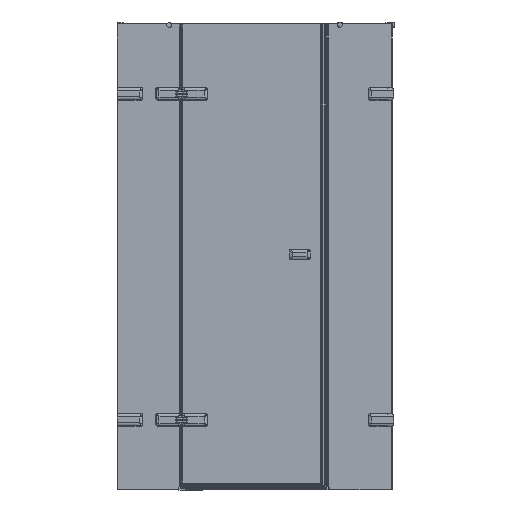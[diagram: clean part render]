
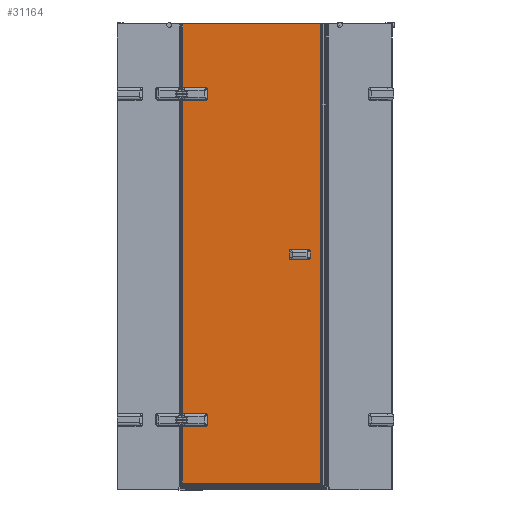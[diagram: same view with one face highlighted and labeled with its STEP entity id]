
A CAD part, front view. The second image highlights one B-rep face of the part: STEP entity #31164.
In plain terms, the highlighted planar face has unit normal (0, -1, 0).
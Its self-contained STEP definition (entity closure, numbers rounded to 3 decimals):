
#1089=PLANE($,#33770);
#2467=LINE($,#60488,#5092);
#2471=LINE($,#60500,#5096);
#2475=LINE($,#60511,#5100);
#2681=LINE($,#61526,#5306);
#2685=LINE($,#61538,#5310);
#2689=LINE($,#61549,#5314);
#3523=LINE($,#70225,#6148);
#3792=LINE($,#71345,#6417);
#3909=LINE($,#71582,#6534);
#3932=LINE($,#71638,#6557);
#3933=LINE($,#71639,#6558);
#3934=LINE($,#71640,#6559);
#5092=VECTOR($,#36714,96.);
#5096=VECTOR($,#36726,42.);
#5100=VECTOR($,#36738,96.);
#5306=VECTOR($,#37362,96.);
#5310=VECTOR($,#37374,42.);
#5314=VECTOR($,#37386,96.);
#6148=VECTOR($,#39926,598.747);
#6417=VECTOR($,#40635,252.83);
#6534=VECTOR($,#40880,277.43);
#6557=VECTOR($,#40955,598.747);
#6558=VECTOR($,#40956,1975.4);
#6559=VECTOR($,#40957,1354.861);
#8727=FACE_OUTER_BOUND($,#10647,.T.);
#10647=EDGE_LOOP($,(#26387,#26388,#26389,#26390,#26391,#26392,#26393,#26394,
#26395,#26396,#26397,#26398,#26399,#26400,#26401,#26402,#26403,#26404,#26405,
#26406));
#11836=CIRCLE($,#32305,5.);
#11839=CIRCLE($,#32309,5.);
#11876=CIRCLE($,#32384,5.);
#11878=CIRCLE($,#32388,5.);
#11919=CIRCLE($,#32519,5.);
#11922=CIRCLE($,#32523,5.);
#11961=CIRCLE($,#32601,5.);
#11963=CIRCLE($,#32605,5.);
#13331=VERTEX_POINT($,#60149);
#13332=VERTEX_POINT($,#60158);
#13335=VERTEX_POINT($,#60165);
#13338=VERTEX_POINT($,#60178);
#13449=VERTEX_POINT($,#60487);
#13451=VERTEX_POINT($,#60493);
#13453=VERTEX_POINT($,#60499);
#13455=VERTEX_POINT($,#60505);
#13543=VERTEX_POINT($,#61182);
#13544=VERTEX_POINT($,#61191);
#13547=VERTEX_POINT($,#61198);
#13550=VERTEX_POINT($,#61211);
#13660=VERTEX_POINT($,#61525);
#13662=VERTEX_POINT($,#61531);
#13664=VERTEX_POINT($,#61537);
#13666=VERTEX_POINT($,#61543);
#14577=VERTEX_POINT($,#70222);
#14578=VERTEX_POINT($,#70224);
#14857=VERTEX_POINT($,#71332);
#14920=VERTEX_POINT($,#71637);
#16453=EDGE_CURVE($,#13332,#13331,#11836,.T.);
#16460=EDGE_CURVE($,#13335,#13338,#11839,.T.);
#16612=EDGE_CURVE($,#13338,#13449,#2467,.T.);
#16615=EDGE_CURVE($,#13449,#13451,#11876,.T.);
#16618=EDGE_CURVE($,#13451,#13453,#2471,.T.);
#16621=EDGE_CURVE($,#13453,#13455,#11878,.T.);
#16624=EDGE_CURVE($,#13455,#13332,#2475,.T.);
#16783=EDGE_CURVE($,#13544,#13543,#11919,.T.);
#16790=EDGE_CURVE($,#13547,#13550,#11922,.T.);
#16947=EDGE_CURVE($,#13550,#13660,#2681,.T.);
#16950=EDGE_CURVE($,#13660,#13662,#11961,.T.);
#16953=EDGE_CURVE($,#13662,#13664,#2685,.T.);
#16956=EDGE_CURVE($,#13664,#13666,#11963,.T.);
#16959=EDGE_CURVE($,#13666,#13544,#2689,.T.);
#18339=EDGE_CURVE($,#14577,#14578,#3523,.T.);
#18741=EDGE_CURVE($,#13331,#14857,#3792,.T.);
#18860=EDGE_CURVE($,#14577,#13547,#3909,.T.);
#18887=EDGE_CURVE($,#14857,#14920,#3932,.T.);
#18888=EDGE_CURVE($,#14920,#14578,#3933,.T.);
#18889=EDGE_CURVE($,#13543,#13335,#3934,.T.);
#26387=ORIENTED_EDGE($,*,*,#16453,.T.);
#26388=ORIENTED_EDGE($,*,*,#18741,.T.);
#26389=ORIENTED_EDGE($,*,*,#18887,.T.);
#26390=ORIENTED_EDGE($,*,*,#18888,.T.);
#26391=ORIENTED_EDGE($,*,*,#18339,.F.);
#26392=ORIENTED_EDGE($,*,*,#18860,.T.);
#26393=ORIENTED_EDGE($,*,*,#16790,.T.);
#26394=ORIENTED_EDGE($,*,*,#16947,.T.);
#26395=ORIENTED_EDGE($,*,*,#16950,.T.);
#26396=ORIENTED_EDGE($,*,*,#16953,.T.);
#26397=ORIENTED_EDGE($,*,*,#16956,.T.);
#26398=ORIENTED_EDGE($,*,*,#16959,.T.);
#26399=ORIENTED_EDGE($,*,*,#16783,.T.);
#26400=ORIENTED_EDGE($,*,*,#18889,.T.);
#26401=ORIENTED_EDGE($,*,*,#16460,.T.);
#26402=ORIENTED_EDGE($,*,*,#16612,.T.);
#26403=ORIENTED_EDGE($,*,*,#16615,.T.);
#26404=ORIENTED_EDGE($,*,*,#16618,.T.);
#26405=ORIENTED_EDGE($,*,*,#16621,.T.);
#26406=ORIENTED_EDGE($,*,*,#16624,.T.);
#31164=ADVANCED_FACE($,(#8727),#1089,.T.);
#32305=AXIS2_PLACEMENT_3D($,#60159,#36444,#36445);
#32309=AXIS2_PLACEMENT_3D($,#60180,#36455,#36456);
#32384=AXIS2_PLACEMENT_3D($,#60494,#36719,#36720);
#32388=AXIS2_PLACEMENT_3D($,#60506,#36731,#36732);
#32519=AXIS2_PLACEMENT_3D($,#61192,#37083,#37084);
#32523=AXIS2_PLACEMENT_3D($,#61213,#37094,#37095);
#32601=AXIS2_PLACEMENT_3D($,#61532,#37367,#37368);
#32605=AXIS2_PLACEMENT_3D($,#61544,#37379,#37380);
#33770=AXIS2_PLACEMENT_3D($,#71636,#40953,#40954);
#36444=DIRECTION('center_axis',(0.,1.,0.));
#36445=DIRECTION('ref_axis',(1.,0.,0.));
#36455=DIRECTION('center_axis',(0.,1.,0.));
#36456=DIRECTION('ref_axis',(0.,0.,
-1.));
#36714=DIRECTION($,(1.,0.,0.));
#36719=DIRECTION('center_axis',(0.,1.,0.));
#36720=DIRECTION('ref_axis',(-1.,0.,0.));
#36726=DIRECTION($,(0.,0.,-1.));
#36731=DIRECTION('center_axis',(0.,1.,0.));
#36732=DIRECTION('ref_axis',(0.,0.,
1.));
#36738=DIRECTION($,(-1.,0.,0.));
#37083=DIRECTION('center_axis',(0.,1.,0.));
#37084=DIRECTION('ref_axis',(1.,0.,0.));
#37094=DIRECTION('center_axis',(0.,1.,0.));
#37095=DIRECTION('ref_axis',(0.,0.,
-1.));
#37362=DIRECTION($,(1.,0.,0.));
#37367=DIRECTION('center_axis',(0.,1.,0.));
#37368=DIRECTION('ref_axis',(-1.,0.,0.));
#37374=DIRECTION($,(0.,0.,-1.));
#37379=DIRECTION('center_axis',(0.,1.,0.));
#37380=DIRECTION('ref_axis',(0.,0.,
1.));
#37386=DIRECTION($,(-1.,0.,0.));
#39926=DIRECTION($,(1.,0.,0.));
#40635=DIRECTION($,(0.,0.,-1.));
#40880=DIRECTION($,(0.,0.,-1.));
#40953=DIRECTION('center_axis',(0.,-1.,0.));
#40954=DIRECTION('ref_axis',(1.,0.,0.));
#40955=DIRECTION($,(1.,0.,0.));
#40956=DIRECTION($,(0.,0.,1.));
#40957=DIRECTION($,(0.,0.,-1.));
#60149=CARTESIAN_POINT('',(475.843,-34.044,-236.625));
#60158=CARTESIAN_POINT('',(480.59,-34.044,-240.056));
#60159=CARTESIAN_POINT('Origin',(480.59,-34.044,-235.056));
#60165=CARTESIAN_POINT('',(475.843,-34.044,-191.486));
#60178=CARTESIAN_POINT('',(480.59,-34.044,-188.056));
#60180=CARTESIAN_POINT('Origin',(480.59,-34.044,-193.056));
#60487=CARTESIAN_POINT('',(576.59,-34.044,-188.056));
#60488=CARTESIAN_POINT($,(525.59,-34.044,-188.056));
#60493=CARTESIAN_POINT('',(581.59,-34.044,-193.056));
#60494=CARTESIAN_POINT('Origin',(576.59,-34.044,-193.056));
#60499=CARTESIAN_POINT('',(581.59,-34.044,-235.056));
#60500=CARTESIAN_POINT($,(581.59,-34.044,-364.556));
#60505=CARTESIAN_POINT('',(576.59,-34.044,-240.056));
#60506=CARTESIAN_POINT('Origin',(576.59,-34.044,-235.056));
#60511=CARTESIAN_POINT($,(477.59,-34.044,-240.056));
#61182=CARTESIAN_POINT('',(475.843,-34.044,1163.375));
#61191=CARTESIAN_POINT('',(480.59,-34.044,1159.944));
#61192=CARTESIAN_POINT('Origin',(480.59,-34.044,1164.944));
#61198=CARTESIAN_POINT('',(475.843,-34.044,1208.514));
#61211=CARTESIAN_POINT('',(480.59,-34.044,1211.944));
#61213=CARTESIAN_POINT('Origin',(480.59,-34.044,1206.944));
#61525=CARTESIAN_POINT('',(576.59,-34.044,1211.944));
#61526=CARTESIAN_POINT($,(525.59,-34.044,1211.944));
#61531=CARTESIAN_POINT('',(581.59,-34.044,1206.944));
#61532=CARTESIAN_POINT('Origin',(576.59,-34.044,1206.944));
#61537=CARTESIAN_POINT('',(581.59,-34.044,1164.944));
#61538=CARTESIAN_POINT($,(581.59,-34.044,335.444));
#61543=CARTESIAN_POINT('',(576.59,-34.044,1159.944));
#61544=CARTESIAN_POINT('Origin',(576.59,-34.044,1164.944));
#61549=CARTESIAN_POINT($,(477.59,-34.044,1159.944));
#70222=CARTESIAN_POINT('',(475.843,-34.044,1485.944));
#70224=CARTESIAN_POINT('',(1074.59,-34.044,1485.944));
#70225=CARTESIAN_POINT($,(474.59,-34.044,1485.944));
#71332=CARTESIAN_POINT('',(475.843,-34.044,-489.456));
#71345=CARTESIAN_POINT($,(475.843,-34.044,-224.056));
#71582=CARTESIAN_POINT($,(475.843,-34.044,1195.944));
#71636=CARTESIAN_POINT('Origin',(474.59,-34.044,-494.056));
#71637=CARTESIAN_POINT('',(1074.59,-34.044,-489.456));
#71638=CARTESIAN_POINT($,(474.59,-34.044,-489.456));
#71639=CARTESIAN_POINT($,(1074.59,-34.044,-494.056));
#71640=CARTESIAN_POINT($,(475.843,-34.044,1175.944));
